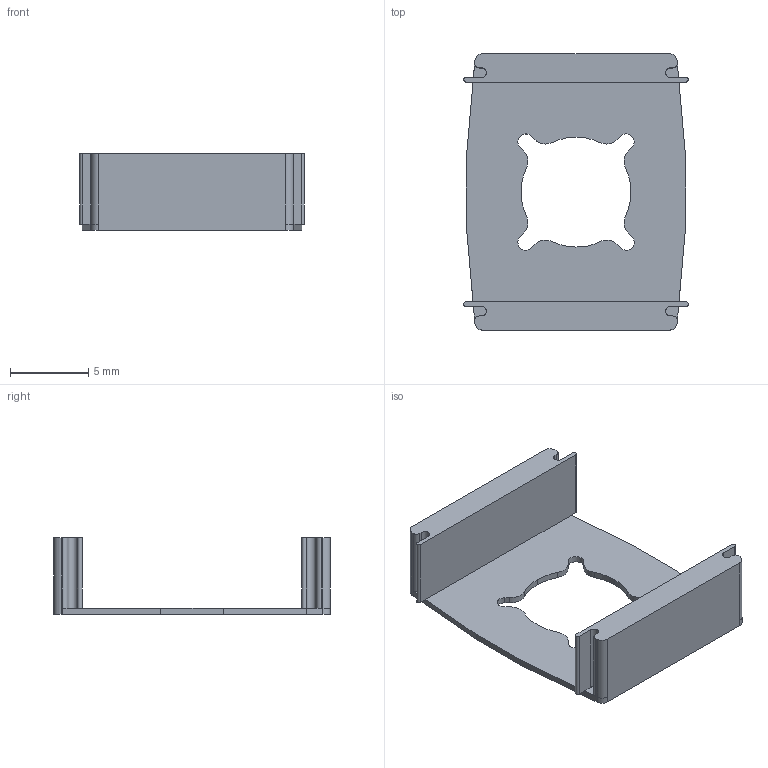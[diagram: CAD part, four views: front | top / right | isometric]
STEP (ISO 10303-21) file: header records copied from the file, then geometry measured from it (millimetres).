
FILE_DESCRIPTION((''),'2;1');
FILE_NAME('F:\NH-08.stp','2013-12-03T14:31:12',('AMS8'),(''),'Autodesk Inventor 2008','Autodesk Inventor 2008','');
FILE_SCHEMA(('AUTOMOTIVE_DESIGN { 1 0 10303 214 1 1 1 1 }'));
Length unit declared in the file: millimetre
Products named in the file (1): NH-08
Bounding box: 14.3 x 17.6 x 4.9 mm (x, y, z)
Volume: 281.1 mm3; surface area: 727.6 mm2
Topology: 1 solids, 1 shells, 84 faces, 225 edges, 143 vertices
Faces by surface type: plane 47, cylinder 37
Entity records: 2645 total; most frequent: DIRECTION 469, CARTESIAN_POINT 453, ORIENTED_EDGE 450, EDGE_CURVE 225, AXIS2_PLACEMENT_3D 159, VECTOR 151, LINE 151, VERTEX_POINT 143
